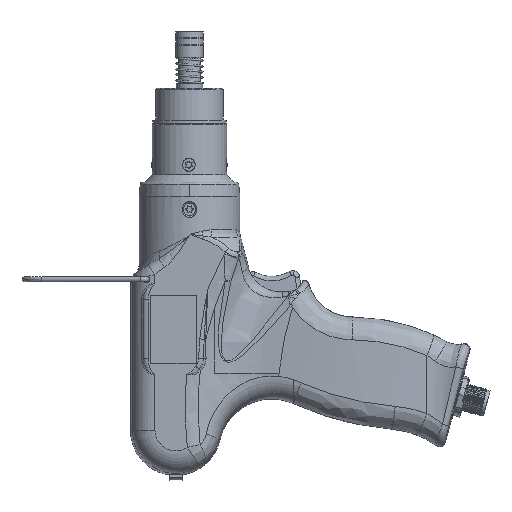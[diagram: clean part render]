
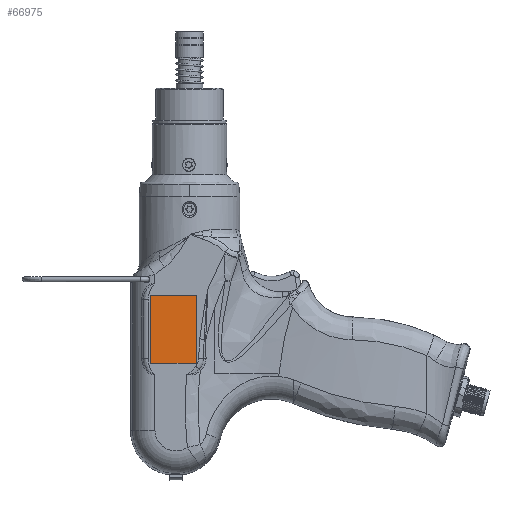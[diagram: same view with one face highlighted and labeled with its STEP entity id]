
A CAD part, left-side view. The second image highlights one B-rep face of the part: STEP entity #66975.
In plain terms, the highlighted planar face has unit normal (-1, 0, 0).
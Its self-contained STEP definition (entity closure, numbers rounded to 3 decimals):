
#6746 = CARTESIAN_POINT ( 'NONE',  ( -21.3, -2.899, -37. ) ) ;
#14443 = LINE ( 'NONE', #49608, #100174 ) ;
#14632 = ORIENTED_EDGE ( 'NONE', *, *, #112492, .F. ) ;
#15714 = LINE ( 'NONE', #143575, #62009 ) ;
#18872 = ORIENTED_EDGE ( 'NONE', *, *, #27771, .T. ) ;
#21233 = CARTESIAN_POINT ( 'NONE',  ( -21.3, -2.899, -7. ) ) ;
#23967 = VERTEX_POINT ( 'NONE', #21233 ) ;
#27771 = EDGE_CURVE ( 'NONE', #134544, #136110, #14443, .T. ) ;
#28584 = VECTOR ( 'NONE', #101170, 1000. ) ;
#32508 = VERTEX_POINT ( 'NONE', #6746 ) ;
#37031 = DIRECTION ( 'NONE',  ( 0., 0., -1. ) ) ;
#39164 = ORIENTED_EDGE ( 'NONE', *, *, #51946, .F. ) ;
#41748 = VECTOR ( 'NONE', #37031, 1000. ) ;
#49608 = CARTESIAN_POINT ( 'NONE',  ( -21.3, 17.101, -22. ) ) ;
#51946 = EDGE_CURVE ( 'NONE', #23967, #32508, #101736, .T. ) ;
#52108 = DIRECTION ( 'NONE',  ( 0., 0., -1. ) ) ;
#59157 = DIRECTION ( 'NONE',  ( -1., 0., 0. ) ) ;
#62009 = VECTOR ( 'NONE', #94155, 1000. ) ;
#66975 = ADVANCED_FACE ( 'NONE', ( #81299 ), #79557, .T. ) ;
#79557 = PLANE ( 'NONE',  #86454 ) ;
#81299 = FACE_OUTER_BOUND ( 'NONE', #114714, .T. ) ;
#82987 = CARTESIAN_POINT ( 'NONE',  ( -21.3, 7.101, -22. ) ) ;
#86454 = AXIS2_PLACEMENT_3D ( 'NONE', #82987, #59157, #97411 ) ;
#87501 = EDGE_CURVE ( 'NONE', #23967, #134544, #142863, .T. ) ;
#94155 = DIRECTION ( 'NONE',  ( 0., 1., 0. ) ) ;
#97411 = DIRECTION ( 'NONE',  ( 0., 0., 1. ) ) ;
#100174 = VECTOR ( 'NONE', #52108, 1000. ) ;
#101170 = DIRECTION ( 'NONE',  ( 0., 1., 0. ) ) ;
#101736 = LINE ( 'NONE', #153655, #41748 ) ;
#105670 = ORIENTED_EDGE ( 'NONE', *, *, #87501, .T. ) ;
#112492 = EDGE_CURVE ( 'NONE', #32508, #136110, #15714, .T. ) ;
#114714 = EDGE_LOOP ( 'NONE', ( #14632, #39164, #105670, #18872 ) ) ;
#116926 = CARTESIAN_POINT ( 'NONE',  ( -21.3, 17.101, -37. ) ) ;
#134544 = VERTEX_POINT ( 'NONE', #141482 ) ;
#136110 = VERTEX_POINT ( 'NONE', #116926 ) ;
#141482 = CARTESIAN_POINT ( 'NONE',  ( -21.3, 17.101, -7. ) ) ;
#142863 = LINE ( 'NONE', #165873, #28584 ) ;
#143575 = CARTESIAN_POINT ( 'NONE',  ( -21.3, 7.101, -37. ) ) ;
#153655 = CARTESIAN_POINT ( 'NONE',  ( -21.3, -2.899, -22. ) ) ;
#165873 = CARTESIAN_POINT ( 'NONE',  ( -21.3, 7.101, -7. ) ) ;
